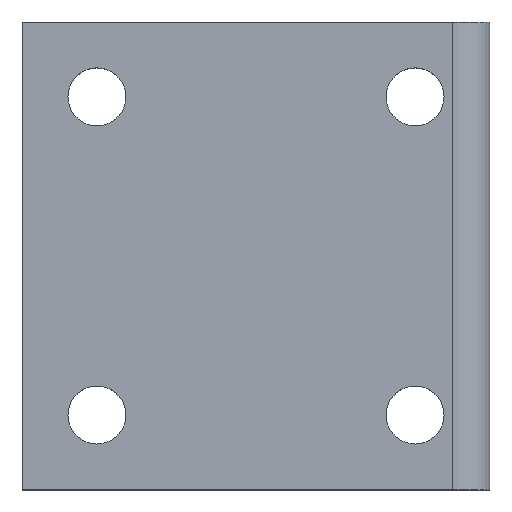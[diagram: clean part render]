
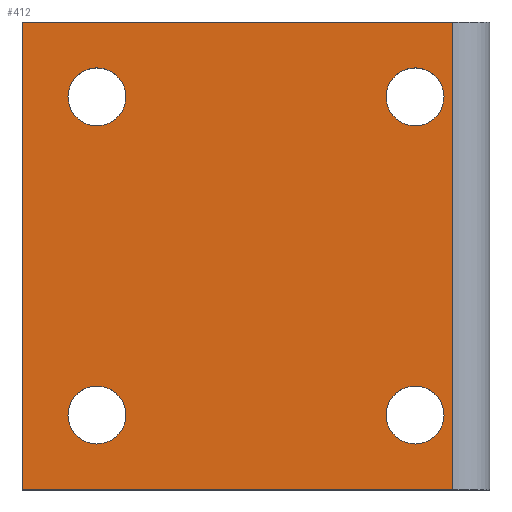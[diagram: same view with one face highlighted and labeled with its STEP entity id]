
A CAD part, top view. The second image highlights one B-rep face of the part: STEP entity #412.
In plain terms, the highlighted planar face has unit normal (0, 0, 1).
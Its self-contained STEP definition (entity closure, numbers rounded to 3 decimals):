
#3 = AXIS2_PLACEMENT_3D ( 'NONE', #501, #289, #160 ) ;
#4 = VERTEX_POINT ( 'NONE', #58 ) ;
#9 = EDGE_CURVE ( 'NONE', #92, #128, #517, .T. ) ;
#16 = CARTESIAN_POINT ( 'NONE',  ( 8.5, -8.5, 4. ) ) ;
#23 = CARTESIAN_POINT ( 'NONE',  ( 6.95, -8.5, 4. ) ) ;
#33 = CARTESIAN_POINT ( 'NONE',  ( -12.5, -12.5, 4. ) ) ;
#42 = EDGE_LOOP ( 'NONE', ( #235, #299, #451, #115 ) ) ;
#45 = EDGE_LOOP ( 'NONE', ( #187, #170 ) ) ;
#53 = CARTESIAN_POINT ( 'NONE',  ( -8.5, 8.5, 4. ) ) ;
#56 = VERTEX_POINT ( 'NONE', #534 ) ;
#58 = CARTESIAN_POINT ( 'NONE',  ( -6.95, -8.5, 4. ) ) ;
#65 = EDGE_CURVE ( 'NONE', #311, #4, #241, .T. ) ;
#71 = CARTESIAN_POINT ( 'NONE',  ( -10.05, 8.5, 4. ) ) ;
#75 = ORIENTED_EDGE ( 'NONE', *, *, #540, .F. ) ;
#83 = CARTESIAN_POINT ( 'NONE',  ( -12.5, -12.5, 4. ) ) ;
#92 = VERTEX_POINT ( 'NONE', #23 ) ;
#101 = EDGE_CURVE ( 'NONE', #56, #393, #555, .T. ) ;
#102 = FACE_BOUND ( 'NONE', #45, .T. ) ;
#110 = DIRECTION ( 'NONE',  ( 0., 0., 1. ) ) ;
#112 = AXIS2_PLACEMENT_3D ( 'NONE', #133, #390, #306 ) ;
#115 = ORIENTED_EDGE ( 'NONE', *, *, #489, .T. ) ;
#121 = AXIS2_PLACEMENT_3D ( 'NONE', #421, #110, #202 ) ;
#127 = DIRECTION ( 'NONE',  ( 0., 1., 0. ) ) ;
#128 = VERTEX_POINT ( 'NONE', #211 ) ;
#132 = EDGE_CURVE ( 'NONE', #128, #92, #535, .T. ) ;
#133 = CARTESIAN_POINT ( 'NONE',  ( 8.5, 8.5, 4. ) ) ;
#142 = EDGE_LOOP ( 'NONE', ( #419, #75 ) ) ;
#159 = DIRECTION ( 'NONE',  ( 1., 0., 0. ) ) ;
#160 = DIRECTION ( 'NONE',  ( 1., 0., 0. ) ) ;
#161 = EDGE_CURVE ( 'NONE', #382, #280, #279, .T. ) ;
#163 = DIRECTION ( 'NONE',  ( -1., 0., 0. ) ) ;
#166 = CIRCLE ( 'NONE', #495, 1.55 ) ;
#170 = ORIENTED_EDGE ( 'NONE', *, *, #319, .F. ) ;
#171 = CARTESIAN_POINT ( 'NONE',  ( -8.5, -8.5, 4. ) ) ;
#176 = VECTOR ( 'NONE', #127, 1000. ) ;
#179 = VERTEX_POINT ( 'NONE', #33 ) ;
#187 = ORIENTED_EDGE ( 'NONE', *, *, #65, .F. ) ;
#190 = CARTESIAN_POINT ( 'NONE',  ( -12.5, 12.5, 4. ) ) ;
#202 = DIRECTION ( 'NONE',  ( 1., 0., 0. ) ) ;
#203 = DIRECTION ( 'NONE',  ( 1., 0., 0. ) ) ;
#209 = ORIENTED_EDGE ( 'NONE', *, *, #9, .F. ) ;
#211 = CARTESIAN_POINT ( 'NONE',  ( 10.05, -8.5, 4. ) ) ;
#231 = FACE_OUTER_BOUND ( 'NONE', #42, .T. ) ;
#232 = AXIS2_PLACEMENT_3D ( 'NONE', #53, #374, #159 ) ;
#233 = VERTEX_POINT ( 'NONE', #513 ) ;
#235 = ORIENTED_EDGE ( 'NONE', *, *, #310, .T. ) ;
#241 = CIRCLE ( 'NONE', #3, 1.55 ) ;
#260 = DIRECTION ( 'NONE',  ( 1., 0., 0. ) ) ;
#271 = DIRECTION ( 'NONE',  ( 1., 0., 0. ) ) ;
#279 = CIRCLE ( 'NONE', #441, 1.55 ) ;
#280 = VERTEX_POINT ( 'NONE', #527 ) ;
#288 = EDGE_CURVE ( 'NONE', #233, #56, #478, .T. ) ;
#289 = DIRECTION ( 'NONE',  ( 0., 0., 1. ) ) ;
#293 = CARTESIAN_POINT ( 'NONE',  ( 8.5, -8.5, 4. ) ) ;
#298 = CARTESIAN_POINT ( 'NONE',  ( -10.05, -8.5, 4. ) ) ;
#299 = ORIENTED_EDGE ( 'NONE', *, *, #288, .T. ) ;
#306 = DIRECTION ( 'NONE',  ( 1., 0., 0. ) ) ;
#309 = CARTESIAN_POINT ( 'NONE',  ( -6.95, 8.5, 4. ) ) ;
#310 = EDGE_CURVE ( 'NONE', #179, #233, #349, .T. ) ;
#311 = VERTEX_POINT ( 'NONE', #298 ) ;
#312 = FACE_BOUND ( 'NONE', #142, .T. ) ;
#317 = DIRECTION ( 'NONE',  ( 0., 0., 1. ) ) ;
#318 = ORIENTED_EDGE ( 'NONE', *, *, #347, .F. ) ;
#319 = EDGE_CURVE ( 'NONE', #4, #311, #166, .T. ) ;
#321 = AXIS2_PLACEMENT_3D ( 'NONE', #293, #507, #560 ) ;
#331 = VECTOR ( 'NONE', #163, 1000. ) ;
#335 = DIRECTION ( 'NONE',  ( 0., 0., 1. ) ) ;
#341 = CARTESIAN_POINT ( 'NONE',  ( -12.5, 12.5, 4. ) ) ;
#344 = DIRECTION ( 'NONE',  ( 1., 0., 0. ) ) ;
#346 = DIRECTION ( 'NONE',  ( 0., 0., 1. ) ) ;
#347 = EDGE_CURVE ( 'NONE', #280, #382, #457, .T. ) ;
#349 = LINE ( 'NONE', #83, #414 ) ;
#350 = ORIENTED_EDGE ( 'NONE', *, *, #132, .F. ) ;
#361 = AXIS2_PLACEMENT_3D ( 'NONE', #487, #317, #399 ) ;
#362 = EDGE_LOOP ( 'NONE', ( #318, #566 ) ) ;
#366 = DIRECTION ( 'NONE',  ( 0., -1., 0. ) ) ;
#374 = DIRECTION ( 'NONE',  ( 0., 0., 1. ) ) ;
#382 = VERTEX_POINT ( 'NONE', #519 ) ;
#388 = CARTESIAN_POINT ( 'NONE',  ( 10.5, 12.5, 4. ) ) ;
#390 = DIRECTION ( 'NONE',  ( 0., 0., 1. ) ) ;
#393 = VERTEX_POINT ( 'NONE', #341 ) ;
#399 = DIRECTION ( 'NONE',  ( 1., 0., 0. ) ) ;
#401 = FACE_BOUND ( 'NONE', #362, .T. ) ;
#408 = LINE ( 'NONE', #190, #563 ) ;
#409 = EDGE_LOOP ( 'NONE', ( #209, #350 ) ) ;
#412 = ADVANCED_FACE ( 'NONE', ( #102, #312, #231, #401, #490 ), #450, .T. ) ;
#414 = VECTOR ( 'NONE', #260, 1000. ) ;
#416 = CARTESIAN_POINT ( 'NONE',  ( -12.5, 12.5, 4. ) ) ;
#419 = ORIENTED_EDGE ( 'NONE', *, *, #568, .F. ) ;
#421 = CARTESIAN_POINT ( 'NONE',  ( -8.5, 8.5, 4. ) ) ;
#441 = AXIS2_PLACEMENT_3D ( 'NONE', #463, #335, #203 ) ;
#450 = PLANE ( 'NONE',  #361 ) ;
#451 = ORIENTED_EDGE ( 'NONE', *, *, #101, .T. ) ;
#457 = CIRCLE ( 'NONE', #112, 1.55 ) ;
#463 = CARTESIAN_POINT ( 'NONE',  ( 8.5, 8.5, 4. ) ) ;
#475 = CIRCLE ( 'NONE', #232, 1.55 ) ;
#478 = LINE ( 'NONE', #388, #176 ) ;
#487 = CARTESIAN_POINT ( 'NONE',  ( 0., 0., 4. ) ) ;
#489 = EDGE_CURVE ( 'NONE', #393, #179, #408, .T. ) ;
#490 = FACE_BOUND ( 'NONE', #409, .T. ) ;
#495 = AXIS2_PLACEMENT_3D ( 'NONE', #171, #346, #344 ) ;
#501 = CARTESIAN_POINT ( 'NONE',  ( -8.5, -8.5, 4. ) ) ;
#507 = DIRECTION ( 'NONE',  ( 0., 0., 1. ) ) ;
#513 = CARTESIAN_POINT ( 'NONE',  ( 10.5, -12.5, 4. ) ) ;
#517 = CIRCLE ( 'NONE', #543, 1.55 ) ;
#519 = CARTESIAN_POINT ( 'NONE',  ( 10.05, 8.5, 4. ) ) ;
#526 = CIRCLE ( 'NONE', #121, 1.55 ) ;
#527 = CARTESIAN_POINT ( 'NONE',  ( 6.95, 8.5, 4. ) ) ;
#534 = CARTESIAN_POINT ( 'NONE',  ( 10.5, 12.5, 4. ) ) ;
#535 = CIRCLE ( 'NONE', #321, 1.55 ) ;
#537 = VERTEX_POINT ( 'NONE', #309 ) ;
#540 = EDGE_CURVE ( 'NONE', #537, #553, #475, .T. ) ;
#542 = DIRECTION ( 'NONE',  ( 0., 0., 1. ) ) ;
#543 = AXIS2_PLACEMENT_3D ( 'NONE', #16, #542, #271 ) ;
#553 = VERTEX_POINT ( 'NONE', #71 ) ;
#555 = LINE ( 'NONE', #416, #331 ) ;
#560 = DIRECTION ( 'NONE',  ( 1., 0., 0. ) ) ;
#563 = VECTOR ( 'NONE', #366, 1000. ) ;
#566 = ORIENTED_EDGE ( 'NONE', *, *, #161, .F. ) ;
#568 = EDGE_CURVE ( 'NONE', #553, #537, #526, .T. ) ;
